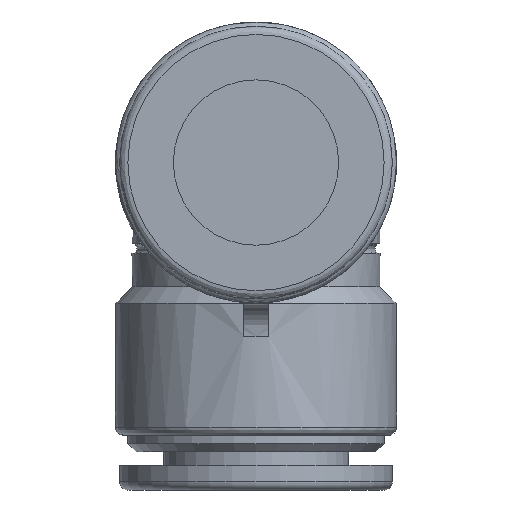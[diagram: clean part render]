
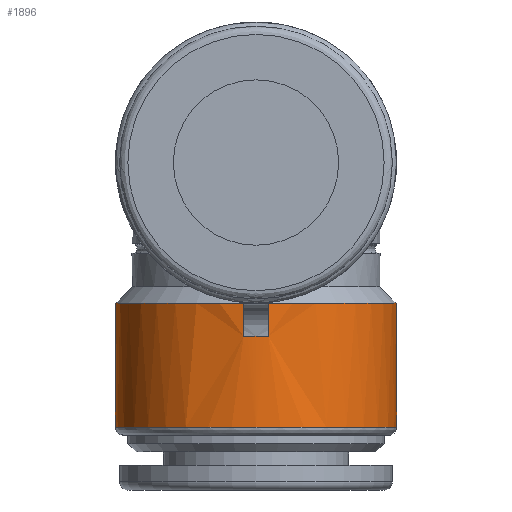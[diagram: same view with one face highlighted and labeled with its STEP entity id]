
A CAD part, left-side view. The second image highlights one B-rep face of the part: STEP entity #1896.
In plain terms, the highlighted free-form (B-spline) face has degree [1, 2] with [2, 9] control points.
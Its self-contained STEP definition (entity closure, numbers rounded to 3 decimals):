
#378=CARTESIAN_POINT('',(-8.5,0.0,-10.5));
#379=VERTEX_POINT('',#378);
#380=CARTESIAN_POINT('',(-8.467,0.75,-10.5));
#381=VERTEX_POINT('',#380);
#382=CARTESIAN_POINT('',(0.,0.0,-10.5));
#383=DIRECTION('',(0.0,0.0,-1.0));
#384=DIRECTION('',(1.0,0.0,0.0));
#385=AXIS2_PLACEMENT_3D('',#382,#383,#384);
#386=CIRCLE('',#385,8.5);
#387=EDGE_CURVE('',#379,#381,#386,.T.);
#411=CARTESIAN_POINT('',(-8.467,-0.75,-10.5));
#412=VERTEX_POINT('',#411);
#413=CARTESIAN_POINT('',(0.,0.0,-10.5));
#414=DIRECTION('',(0.0,0.0,-1.0));
#415=DIRECTION('',(1.0,0.0,0.0));
#416=AXIS2_PLACEMENT_3D('',#413,#414,#415);
#417=CIRCLE('',#416,8.5);
#418=EDGE_CURVE('',#412,#379,#417,.T.);
#452=CARTESIAN_POINT('',(-8.467,-0.75,-8.5));
#453=VERTEX_POINT('',#452);
#454=CARTESIAN_POINT('',(-8.467,-0.75,-8.5));
#455=DIRECTION('',(0.0,0.0,-1.0));
#456=VECTOR('',#455,2.0);
#457=LINE('',#454,#456);
#458=EDGE_CURVE('',#453,#412,#457,.T.);
#601=CARTESIAN_POINT('',(-8.467,0.75,-8.5));
#602=VERTEX_POINT('',#601);
#616=CARTESIAN_POINT('',(-8.467,0.75,-10.5));
#617=DIRECTION('',(0.0,0.0,1.0));
#618=VECTOR('',#617,2.0);
#619=LINE('',#616,#618);
#620=EDGE_CURVE('',#381,#602,#619,.T.);
#1706=CARTESIAN_POINT('',(0.,8.5,-16.));
#1707=VERTEX_POINT('',#1706);
#1708=CARTESIAN_POINT('',(0.,0.0,-16.));
#1709=DIRECTION('',(0.0,0.0,1.0));
#1710=DIRECTION('',(-1.0,0.0,0.0));
#1711=AXIS2_PLACEMENT_3D('',#1708,#1709,#1710);
#1712=CIRCLE('',#1711,8.5);
#1713=EDGE_CURVE('',#1707,#1707,#1712,.T.);
#1747=CARTESIAN_POINT('',(8.467,-0.75,-8.5));
#1748=VERTEX_POINT('',#1747);
#1749=CARTESIAN_POINT('',(0.,0.0,-8.5));
#1750=DIRECTION('',(0.0,0.0,1.0));
#1751=DIRECTION('',(1.0,0.0,0.0));
#1752=AXIS2_PLACEMENT_3D('',#1749,#1750,#1751);
#1753=CIRCLE('',#1752,8.5);
#1754=EDGE_CURVE('',#453,#1748,#1753,.T.);
#1801=CARTESIAN_POINT('',(8.467,0.75,-8.5));
#1802=VERTEX_POINT('',#1801);
#1816=CARTESIAN_POINT('',(0.,0.0,-8.5));
#1817=DIRECTION('',(0.0,0.0,-1.0));
#1818=DIRECTION('',(-1.0,0.0,0.0));
#1819=AXIS2_PLACEMENT_3D('',#1816,#1817,#1818);
#1820=CIRCLE('',#1819,8.5);
#1821=EDGE_CURVE('',#602,#1802,#1820,.T.);
#1827=CARTESIAN_POINT('',(8.5,0.,-8.5));
#1828=CARTESIAN_POINT('',(8.5,0.,-16.));
#1829=CARTESIAN_POINT('',(8.5,8.5,-8.5));
#1830=CARTESIAN_POINT('',(8.5,8.5,-16.));
#1831=CARTESIAN_POINT('',(0.,8.5,-8.5));
#1832=CARTESIAN_POINT('',(0.,8.5,-16.));
#1833=CARTESIAN_POINT('',(-8.5,8.5,-8.5));
#1834=CARTESIAN_POINT('',(-8.5,8.5,-16.));
#1835=CARTESIAN_POINT('',(-8.5,0.,-8.5));
#1836=CARTESIAN_POINT('',(-8.5,0.,-16.));
#1837=CARTESIAN_POINT('',(-8.5,-8.5,-8.5));
#1838=CARTESIAN_POINT('',(-8.5,-8.5,-16.));
#1839=CARTESIAN_POINT('',(0.,-8.5,-8.5));
#1840=CARTESIAN_POINT('',(0.,-8.5,-16.));
#1841=CARTESIAN_POINT('',(8.5,-8.5,-8.5));
#1842=CARTESIAN_POINT('',(8.5,-8.5,-16.));
#1843=CARTESIAN_POINT('',(8.5,0.,-8.5));
#1844=CARTESIAN_POINT('',(8.5,0.,-16.));
#1852=(BOUNDED_SURFACE()B_SPLINE_SURFACE(1,2,((#1827,#1829,#1831,#1833,#1835,#1837,#1839,#1841,#1843),(#1828,#1830,#1832,#1834,#1836,#1838,#1840,#1842,#1844)),.UNSPECIFIED.,.F.,.T.,.U.)B_SPLINE_SURFACE_WITH_KNOTS((2,2),(3,2,2,2,3),(0.118,1.),(0.0,13.352,26.704,40.055,53.407),.UNSPECIFIED.)GEOMETRIC_REPRESENTATION_ITEM()RATIONAL_B_SPLINE_SURFACE(((1.0,0.707,1.0,0.707,1.0,0.707,1.0,0.707,1.0),(1.0,0.707,1.0,0.707,1.0,0.707,1.0,0.707,1.0)))REPRESENTATION_ITEM('')SURFACE());
#1853=ORIENTED_EDGE('',*,*,#1821,.T.);
#1854=CARTESIAN_POINT('',(8.467,0.75,-10.5));
#1855=VERTEX_POINT('',#1854);
#1856=CARTESIAN_POINT('',(8.467,0.75,-10.5));
#1857=DIRECTION('',(0.0,0.0,1.0));
#1858=VECTOR('',#1857,2.0);
#1859=LINE('',#1856,#1858);
#1860=EDGE_CURVE('',#1855,#1802,#1859,.T.);
#1861=ORIENTED_EDGE('',*,*,#1860,.F.);
#1862=CARTESIAN_POINT('',(8.5,0.0,-10.5));
#1863=VERTEX_POINT('',#1862);
#1864=CARTESIAN_POINT('',(0.,0.0,-10.5));
#1865=DIRECTION('',(0.0,0.0,1.0));
#1866=DIRECTION('',(-1.0,0.0,0.0));
#1867=AXIS2_PLACEMENT_3D('',#1864,#1865,#1866);
#1868=CIRCLE('',#1867,8.5);
#1869=EDGE_CURVE('',#1863,#1855,#1868,.T.);
#1870=ORIENTED_EDGE('',*,*,#1869,.F.);
#1871=CARTESIAN_POINT('',(8.467,-0.75,-10.5));
#1872=VERTEX_POINT('',#1871);
#1873=CARTESIAN_POINT('',(0.,0.0,-10.5));
#1874=DIRECTION('',(0.0,0.0,1.0));
#1875=DIRECTION('',(-1.0,0.0,0.0));
#1876=AXIS2_PLACEMENT_3D('',#1873,#1874,#1875);
#1877=CIRCLE('',#1876,8.5);
#1878=EDGE_CURVE('',#1872,#1863,#1877,.T.);
#1879=ORIENTED_EDGE('',*,*,#1878,.F.);
#1880=CARTESIAN_POINT('',(8.467,-0.75,-8.5));
#1881=DIRECTION('',(0.0,0.0,-1.0));
#1882=VECTOR('',#1881,2.0);
#1883=LINE('',#1880,#1882);
#1884=EDGE_CURVE('',#1748,#1872,#1883,.T.);
#1885=ORIENTED_EDGE('',*,*,#1884,.F.);
#1886=ORIENTED_EDGE('',*,*,#1754,.F.);
#1887=ORIENTED_EDGE('',*,*,#458,.T.);
#1888=ORIENTED_EDGE('',*,*,#418,.T.);
#1889=ORIENTED_EDGE('',*,*,#387,.T.);
#1890=ORIENTED_EDGE('',*,*,#620,.T.);
#1891=EDGE_LOOP('',(#1853,#1861,#1870,#1879,#1885,#1886,#1887,#1888,#1889,#1890));
#1892=FACE_OUTER_BOUND('',#1891,.T.);
#1893=ORIENTED_EDGE('',*,*,#1713,.T.);
#1894=EDGE_LOOP('',(#1893));
#1895=FACE_BOUND('',#1894,.T.);
#1896=ADVANCED_FACE('',(#1892,#1895),#1852,.T.);
